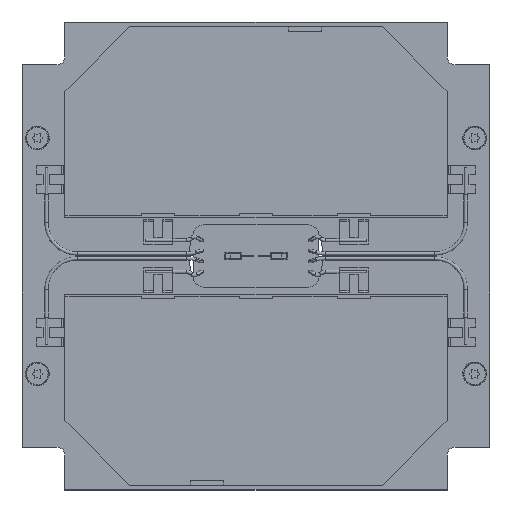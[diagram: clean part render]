
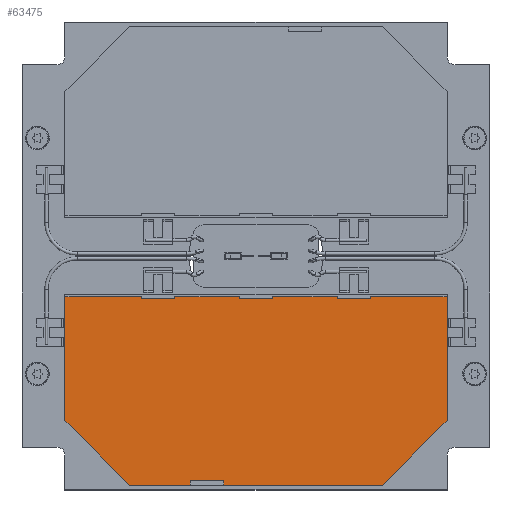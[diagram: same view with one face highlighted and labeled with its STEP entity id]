
A CAD part, top view. The second image highlights one B-rep face of the part: STEP entity #63475.
In plain terms, the highlighted planar face has unit normal (0, 0, 1).
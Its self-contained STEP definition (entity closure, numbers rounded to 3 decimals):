
#11580=DIRECTION('',(1.,0.,0.));
#11581=VECTOR('',#11580,16.);
#11582=CARTESIAN_POINT('',(73.,40.5,0.95));
#11583=LINE('',#11582,#11581);
#11584=DIRECTION('',(0.,-1.,0.));
#11585=VECTOR('',#11584,26.);
#11586=CARTESIAN_POINT('',(89.,40.5,0.95));
#11587=LINE('',#11586,#11585);
#11588=DIRECTION('',(-0.707,-0.707,0.));
#11589=VECTOR('',#11588,19.092);
#11590=CARTESIAN_POINT('',(89.,14.5,0.95));
#11591=LINE('',#11590,#11589);
#11592=DIRECTION('',(-1.,0.,0.));
#11593=VECTOR('',#11592,33.25);
#11594=CARTESIAN_POINT('',(75.5,1.,0.95));
#11595=LINE('',#11594,#11593);
#11596=DIRECTION('',(0.,-1.,0.));
#11597=VECTOR('',#11596,1.);
#11598=CARTESIAN_POINT('',(35.25,2.,0.95));
#11599=LINE('',#11598,#11597);
#11600=DIRECTION('',(-1.,0.,0.));
#11601=VECTOR('',#11600,12.75);
#11602=CARTESIAN_POINT('',(35.25,1.,0.95));
#11603=LINE('',#11602,#11601);
#11604=DIRECTION('',(-0.707,0.707,0.));
#11605=VECTOR('',#11604,19.092);
#11606=CARTESIAN_POINT('',(22.5,1.,0.95));
#11607=LINE('',#11606,#11605);
#11608=DIRECTION('',(0.,1.,0.));
#11609=VECTOR('',#11608,26.);
#11610=CARTESIAN_POINT('',(9.,14.5,0.95));
#11611=LINE('',#11610,#11609);
#11612=DIRECTION('',(1.,0.,0.));
#11613=VECTOR('',#11612,16.);
#11614=CARTESIAN_POINT('',(9.,40.5,0.95));
#11615=LINE('',#11614,#11613);
#11616=DIRECTION('',(0.,1.,0.));
#11617=VECTOR('',#11616,0.5);
#11618=CARTESIAN_POINT('',(32.,40.,0.95));
#11619=LINE('',#11618,#11617);
#11620=DIRECTION('',(1.,0.,0.));
#11621=VECTOR('',#11620,13.5);
#11622=CARTESIAN_POINT('',(32.,40.5,0.95));
#11623=LINE('',#11622,#11621);
#11624=DIRECTION('',(0.,1.,0.));
#11625=VECTOR('',#11624,0.5);
#11626=CARTESIAN_POINT('',(52.5,40.,0.95));
#11627=LINE('',#11626,#11625);
#11628=DIRECTION('',(1.,0.,0.));
#11629=VECTOR('',#11628,13.5);
#11630=CARTESIAN_POINT('',(52.5,40.5,0.95));
#11631=LINE('',#11630,#11629);
#11632=DIRECTION('',(0.,1.,0.));
#11633=VECTOR('',#11632,0.5);
#11634=CARTESIAN_POINT('',(73.,40.,0.95));
#11635=LINE('',#11634,#11633);
#11636=DIRECTION('',(0.,-1.,0.));
#11637=VECTOR('',#11636,1.);
#11638=CARTESIAN_POINT('',(42.25,2.,0.95));
#11639=LINE('',#11638,#11637);
#11660=DIRECTION('',(1.,0.,0.));
#11661=VECTOR('',#11660,7.);
#11662=CARTESIAN_POINT('',(35.25,2.,0.95));
#11663=LINE('',#11662,#11661);
#11676=DIRECTION('',(0.,1.,0.));
#11677=VECTOR('',#11676,0.5);
#11678=CARTESIAN_POINT('',(25.,40.,0.95));
#11679=LINE('',#11678,#11677);
#11680=DIRECTION('',(-1.,0.,0.));
#11681=VECTOR('',#11680,7.);
#11682=CARTESIAN_POINT('',(32.,40.,0.95));
#11683=LINE('',#11682,#11681);
#11708=DIRECTION('',(0.,1.,0.));
#11709=VECTOR('',#11708,0.5);
#11710=CARTESIAN_POINT('',(45.5,40.,0.95));
#11711=LINE('',#11710,#11709);
#11712=DIRECTION('',(-1.,0.,0.));
#11713=VECTOR('',#11712,7.);
#11714=CARTESIAN_POINT('',(52.5,40.,0.95));
#11715=LINE('',#11714,#11713);
#11740=DIRECTION('',(0.,1.,0.));
#11741=VECTOR('',#11740,0.5);
#11742=CARTESIAN_POINT('',(66.,40.,0.95));
#11743=LINE('',#11742,#11741);
#11744=DIRECTION('',(-1.,0.,0.));
#11745=VECTOR('',#11744,7.);
#11746=CARTESIAN_POINT('',(73.,40.,0.95));
#11747=LINE('',#11746,#11745);
#47297=CARTESIAN_POINT('',(89.,40.5,0.95));
#47298=CARTESIAN_POINT('',(89.,14.5,0.95));
#47299=VERTEX_POINT('',#47297);
#47300=VERTEX_POINT('',#47298);
#47301=CARTESIAN_POINT('',(75.5,1.,0.95));
#47302=VERTEX_POINT('',#47301);
#47307=CARTESIAN_POINT('',(42.25,1.,0.95));
#47308=VERTEX_POINT('',#47307);
#47309=CARTESIAN_POINT('',(35.25,1.,0.95));
#47310=CARTESIAN_POINT('',(22.5,1.,0.95));
#47311=VERTEX_POINT('',#47309);
#47312=VERTEX_POINT('',#47310);
#47317=CARTESIAN_POINT('',(35.25,2.,0.95));
#47318=VERTEX_POINT('',#47317);
#47319=CARTESIAN_POINT('',(73.,40.5,0.95));
#47320=VERTEX_POINT('',#47319);
#47321=CARTESIAN_POINT('',(42.25,2.,0.95));
#47322=VERTEX_POINT('',#47321);
#47323=CARTESIAN_POINT('',(9.,14.5,0.95));
#47324=VERTEX_POINT('',#47323);
#47325=CARTESIAN_POINT('',(9.,40.5,0.95));
#47326=VERTEX_POINT('',#47325);
#47327=CARTESIAN_POINT('',(25.,40.5,0.95));
#47328=VERTEX_POINT('',#47327);
#47329=CARTESIAN_POINT('',(25.,40.,0.95));
#47330=VERTEX_POINT('',#47329);
#47331=CARTESIAN_POINT('',(32.,40.,0.95));
#47332=VERTEX_POINT('',#47331);
#47333=CARTESIAN_POINT('',(32.,40.5,0.95));
#47334=VERTEX_POINT('',#47333);
#47335=CARTESIAN_POINT('',(45.5,40.5,0.95));
#47336=VERTEX_POINT('',#47335);
#47337=CARTESIAN_POINT('',(45.5,40.,0.95));
#47338=VERTEX_POINT('',#47337);
#47339=CARTESIAN_POINT('',(52.5,40.,0.95));
#47340=VERTEX_POINT('',#47339);
#47341=CARTESIAN_POINT('',(52.5,40.5,0.95));
#47342=VERTEX_POINT('',#47341);
#47343=CARTESIAN_POINT('',(66.,40.5,0.95));
#47344=VERTEX_POINT('',#47343);
#47345=CARTESIAN_POINT('',(66.,40.,0.95));
#47346=VERTEX_POINT('',#47345);
#47347=CARTESIAN_POINT('',(73.,40.,0.95));
#47348=VERTEX_POINT('',#47347);
#63431=CARTESIAN_POINT('',(89.,41.,0.95));
#63432=DIRECTION('',(0.,0.,1.));
#63433=DIRECTION('',(-1.,0.,0.));
#63434=AXIS2_PLACEMENT_3D('',#63431,#63432,#63433);
#63435=PLANE('',#63434);
#63436=ORIENTED_EDGE('',*,*,#63422,.T.);
#63437=ORIENTED_EDGE('',*,*,#60250,.T.);
#63438=ORIENTED_EDGE('',*,*,#60769,.T.);
#63439=ORIENTED_EDGE('',*,*,#60791,.T.);
#63441=ORIENTED_EDGE('',*,*,#63440,.F.);
#63443=ORIENTED_EDGE('',*,*,#63442,.F.);
#63445=ORIENTED_EDGE('',*,*,#63444,.T.);
#63446=ORIENTED_EDGE('',*,*,#60783,.T.);
#63447=ORIENTED_EDGE('',*,*,#60805,.T.);
#63448=ORIENTED_EDGE('',*,*,#60825,.T.);
#63450=ORIENTED_EDGE('',*,*,#63449,.T.);
#63452=ORIENTED_EDGE('',*,*,#63451,.F.);
#63454=ORIENTED_EDGE('',*,*,#63453,.F.);
#63456=ORIENTED_EDGE('',*,*,#63455,.T.);
#63458=ORIENTED_EDGE('',*,*,#63457,.T.);
#63460=ORIENTED_EDGE('',*,*,#63459,.F.);
#63462=ORIENTED_EDGE('',*,*,#63461,.F.);
#63464=ORIENTED_EDGE('',*,*,#63463,.T.);
#63466=ORIENTED_EDGE('',*,*,#63465,.T.);
#63468=ORIENTED_EDGE('',*,*,#63467,.F.);
#63470=ORIENTED_EDGE('',*,*,#63469,.F.);
#63472=ORIENTED_EDGE('',*,*,#63471,.T.);
#63473=EDGE_LOOP('',(#63436,#63437,#63438,#63439,#63441,#63443,#63445,#63446,
#63447,#63448,#63450,#63452,#63454,#63456,#63458,#63460,#63462,#63464,#63466,
#63468,#63470,#63472));
#63474=FACE_OUTER_BOUND('',#63473,.F.);
#63475=ADVANCED_FACE('',(#63474),#63435,.T.);
#60250=EDGE_CURVE('',#47299,#47300,#11587,.T.);
#60769=EDGE_CURVE('',#47300,#47302,#11591,.T.);
#60783=EDGE_CURVE('',#47311,#47312,#11603,.T.);
#60791=EDGE_CURVE('',#47302,#47308,#11595,.T.);
#60805=EDGE_CURVE('',#47312,#47324,#11607,.T.);
#60825=EDGE_CURVE('',#47324,#47326,#11611,.T.);
#63422=EDGE_CURVE('',#47320,#47299,#11583,.T.);
#63440=EDGE_CURVE('',#47322,#47308,#11639,.T.);
#63442=EDGE_CURVE('',#47318,#47322,#11663,.T.);
#63444=EDGE_CURVE('',#47318,#47311,#11599,.T.);
#63449=EDGE_CURVE('',#47326,#47328,#11615,.T.);
#63451=EDGE_CURVE('',#47330,#47328,#11679,.T.);
#63453=EDGE_CURVE('',#47332,#47330,#11683,.T.);
#63455=EDGE_CURVE('',#47332,#47334,#11619,.T.);
#63457=EDGE_CURVE('',#47334,#47336,#11623,.T.);
#63459=EDGE_CURVE('',#47338,#47336,#11711,.T.);
#63461=EDGE_CURVE('',#47340,#47338,#11715,.T.);
#63463=EDGE_CURVE('',#47340,#47342,#11627,.T.);
#63465=EDGE_CURVE('',#47342,#47344,#11631,.T.);
#63467=EDGE_CURVE('',#47346,#47344,#11743,.T.);
#63469=EDGE_CURVE('',#47348,#47346,#11747,.T.);
#63471=EDGE_CURVE('',#47348,#47320,#11635,.T.);
